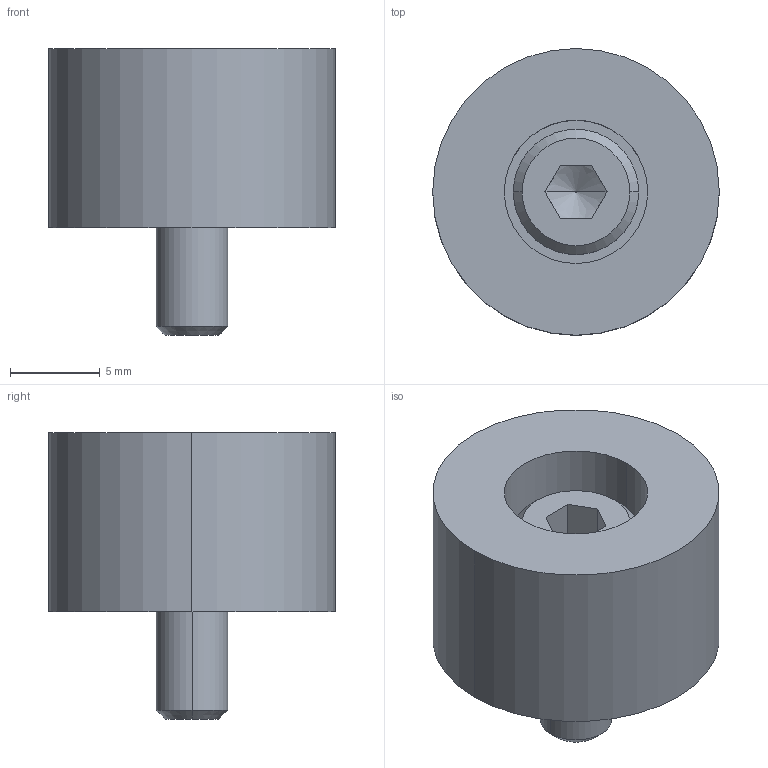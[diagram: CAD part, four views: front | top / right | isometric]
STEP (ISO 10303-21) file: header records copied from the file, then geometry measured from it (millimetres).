
FILE_DESCRIPTION (( 'STEP AP203' ), '1' );
FILE_NAME ('TPD16-10-1.STEP', '2024-06-05T22:32:23', ( '' ), ( '' ), 'SwSTEP 2.0', 'SolidWorks 2017', '' );
FILE_SCHEMA (( 'CONFIG_CONTROL_DESIGN' ));
Length unit declared in the file: millimetre
Products named in the file (3): TPD16-10-1.sldasm-Part-1; TPD16-10-1; TPD16-10-1.sldasm-Part-2
Assembly tree (2 placements, depth 2):
  TPD16-10-1
    TPD16-10-1.sldasm-Part-1
    TPD16-10-1.sldasm-Part-2
Bounding box: 16 x 16 x 16 mm (x, y, z)
Volume: 1902.2 mm3; surface area: 1383.2 mm2
Topology: 2 solids, 2 shells, 29 faces, 60 edges, 38 vertices
Faces by surface type: plane 13, cylinder 10, cone 6
Entity records: 1075 total; most frequent: DIRECTION 148, CARTESIAN_POINT 144, ORIENTED_EDGE 120, AXIS2_PLACEMENT_3D 60, EDGE_CURVE 60, VERTEX_POINT 38, EDGE_LOOP 34, FACE_OUTER_BOUND 29
